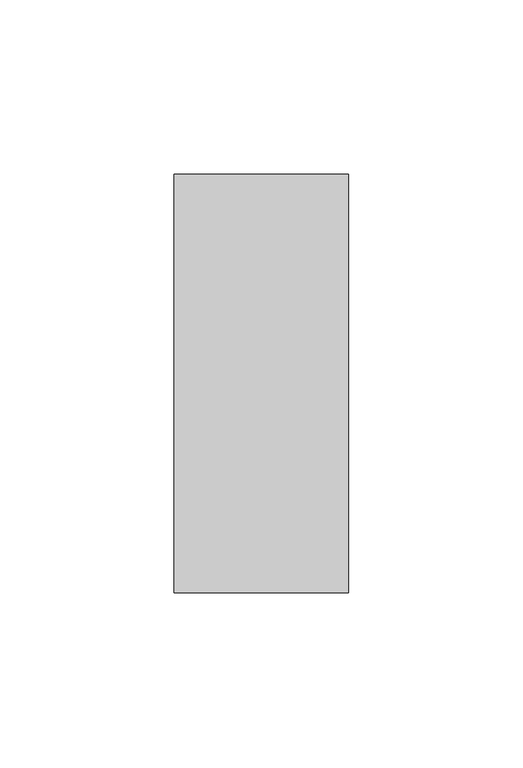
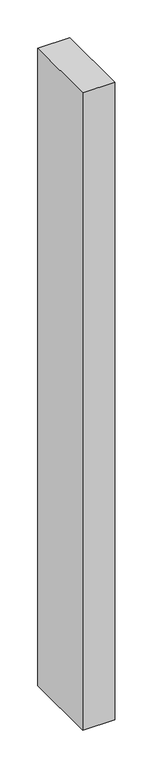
"""IFC4 building model written with IfcOpenShell, lengths in millimetres: member geometry, Прямоугольный импост : 50х120 мм."""

from ifc_helpers import new_model, si_unit, frame, origin, place, context, project, spatial, polyline, outline, extrude, source, transform, mapped, element, save


def member_66ab7281(model_context):
    return source(origin(), model_context, "Body", "SweptSolid", [
        extrude(outline(polyline([(0.0, 60.0), (0.0, -60.0), (-50.0, -60.0), (-50.0, 60.0), (0.0, 60.0)])), frame((0.0, 0.0, -1037.5), z_axis=(0.0, 0.0, 1.0), x_axis=(1.0, 0.0, 0.0)), (0.0, 0.0, 1.0), 1037.5),
    ])


if __name__ == "__main__":
    model = new_model("IFC4")
    model_context = context("Model", 3, world=origin())
    ifc_project = project(units=[si_unit("LENGTHUNIT", "METRE", prefix="MILLI")], contexts=[model_context])
    site = spatial("IfcSite", under=ifc_project)
    building = spatial("IfcBuilding", under=site)
    placement = place(None, origin())
    member_shape = member_66ab7281(model_context)
    element("IfcMember", 1, ObjectType="Прямоугольный импост : 50х120 мм", at=placement, inside=building, context=model_context, shape_type="MappedRepresentation", body=[
        mapped(member_shape, transform((0.0, 0.0, 0.0), x_axis=(1.0, 0.0, 0.0), y_axis=(0.0, 1.0, 0.0), z_axis=(0.0, 0.0, 1.0))),
    ])
    save(model, "model.ifc")
